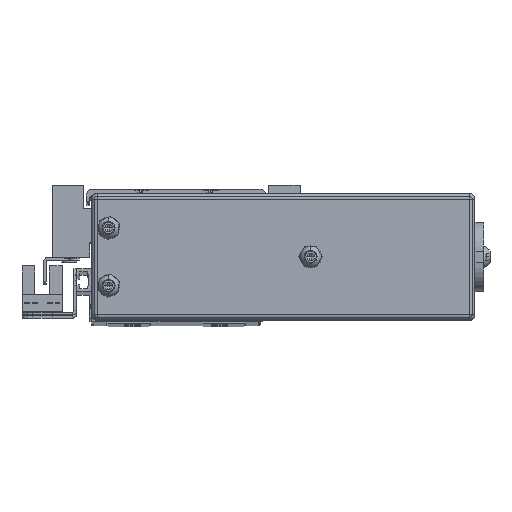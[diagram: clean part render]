
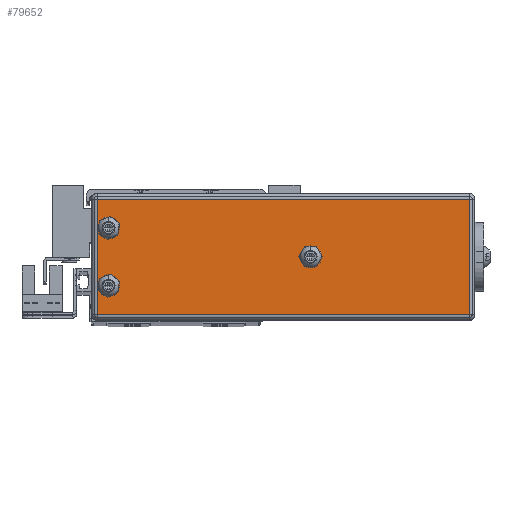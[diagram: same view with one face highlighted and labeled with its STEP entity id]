
A CAD part, top view. The second image highlights one B-rep face of the part: STEP entity #79652.
In plain terms, the highlighted planar face has unit normal (0, 0, 1).
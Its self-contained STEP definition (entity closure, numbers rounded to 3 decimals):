
#1047 = AXIS2_PLACEMENT_3D ( 'NONE', #48680, #118383, #176826 ) ;
#2823 = CARTESIAN_POINT ( 'NONE',  ( -110.161, 0.921, 163. ) ) ;
#3451 = DIRECTION ( 'NONE',  ( 1., 0., 0. ) ) ;
#4426 = CARTESIAN_POINT ( 'NONE',  ( -114.161, -11.079, 163. ) ) ;
#9890 = CARTESIAN_POINT ( 'NONE',  ( -40.161, 10.921, 163. ) ) ;
#11998 = EDGE_LOOP ( 'NONE', ( #132267, #35452 ) ) ;
#14494 = ORIENTED_EDGE ( 'NONE', *, *, #156686, .T. ) ;
#24312 = DIRECTION ( 'NONE',  ( 1., 0., 0. ) ) ;
#25530 = DIRECTION ( 'NONE',  ( 0., 0., 1. ) ) ;
#27119 = EDGE_LOOP ( 'NONE', ( #185744, #116910 ) ) ;
#28439 = VECTOR ( 'NONE', #32657, 1000. ) ;
#30113 = VERTEX_POINT ( 'NONE', #128046 ) ;
#31431 = CIRCLE ( 'NONE', #100628, 2.25 ) ;
#32657 = DIRECTION ( 'NONE',  ( 0., -1., 0. ) ) ;
#32734 = ORIENTED_EDGE ( 'NONE', *, *, #103810, .T. ) ;
#35452 = ORIENTED_EDGE ( 'NONE', *, *, #39516, .F. ) ;
#35946 = EDGE_LOOP ( 'NONE', ( #32734, #89162, #14494, #83785 ) ) ;
#38084 = EDGE_CURVE ( 'NONE', #66572, #30113, #53074, .T. ) ;
#38813 = LINE ( 'NONE', #150051, #61176 ) ;
#39181 = CARTESIAN_POINT ( 'NONE',  ( -110.161, 20.921, 163. ) ) ;
#39516 = EDGE_CURVE ( 'NONE', #71857, #84129, #31431, .T. ) ;
#42375 = DIRECTION ( 'NONE',  ( 1., 0., 0. ) ) ;
#43727 = CARTESIAN_POINT ( 'NONE',  ( -116.161, 30.921, 163. ) ) ;
#47524 = VERTEX_POINT ( 'NONE', #68026 ) ;
#48178 = CARTESIAN_POINT ( 'NONE',  ( -116.161, -11.079, 163. ) ) ;
#48284 = EDGE_CURVE ( 'NONE', #30113, #66572, #64216, .T. ) ;
#48373 = EDGE_CURVE ( 'NONE', #158679, #47524, #88846, .T. ) ;
#48680 = CARTESIAN_POINT ( 'NONE',  ( -40.161, 10.921, 163. ) ) ;
#49473 = DIRECTION ( 'NONE',  ( 0., 0., -1. ) ) ;
#53009 = CIRCLE ( 'NONE', #1047, 2.25 ) ;
#53074 = CIRCLE ( 'NONE', #75130, 2.25 ) ;
#54761 = LINE ( 'NONE', #154415, #81756 ) ;
#56874 = CARTESIAN_POINT ( 'NONE',  ( -110.161, 0.921, 163. ) ) ;
#61176 = VECTOR ( 'NONE', #63977, 1000. ) ;
#61761 = VERTEX_POINT ( 'NONE', #136835 ) ;
#62618 = DIRECTION ( 'NONE',  ( -1., 0., 0. ) ) ;
#63977 = DIRECTION ( 'NONE',  ( 1., 0., 0. ) ) ;
#64216 = CIRCLE ( 'NONE', #111195, 2.25 ) ;
#66572 = VERTEX_POINT ( 'NONE', #165188 ) ;
#68026 = CARTESIAN_POINT ( 'NONE',  ( -114.161, 30.921, 163. ) ) ;
#68253 = EDGE_LOOP ( 'NONE', ( #128956, #131860 ) ) ;
#71857 = VERTEX_POINT ( 'NONE', #80835 ) ;
#74000 = PLANE ( 'NONE',  #85812 ) ;
#75130 = AXIS2_PLACEMENT_3D ( 'NONE', #2823, #175437, #3451 ) ;
#79652 = ADVANCED_FACE ( 'NONE', ( #118202, #156506, #147434, #181205 ), #74000, .F. ) ;
#80835 = CARTESIAN_POINT ( 'NONE',  ( -112.411, 20.921, 163. ) ) ;
#81756 = VECTOR ( 'NONE', #168877, 1000. ) ;
#83785 = ORIENTED_EDGE ( 'NONE', *, *, #133363, .T. ) ;
#84129 = VERTEX_POINT ( 'NONE', #125520 ) ;
#85812 = AXIS2_PLACEMENT_3D ( 'NONE', #48178, #49473, #62618 ) ;
#87600 = DIRECTION ( 'NONE',  ( 1., 0., 0. ) ) ;
#88480 = VERTEX_POINT ( 'NONE', #113069 ) ;
#88846 = LINE ( 'NONE', #43727, #95494 ) ;
#88882 = AXIS2_PLACEMENT_3D ( 'NONE', #39181, #96141, #139558 ) ;
#89076 = EDGE_CURVE ( 'NONE', #61761, #102154, #53009, .T. ) ;
#89162 = ORIENTED_EDGE ( 'NONE', *, *, #48373, .T. ) ;
#91776 = AXIS2_PLACEMENT_3D ( 'NONE', #9890, #25530, #24312 ) ;
#95494 = VECTOR ( 'NONE', #171869, 1000. ) ;
#96141 = DIRECTION ( 'NONE',  ( 0., 0., 1. ) ) ;
#97721 = CIRCLE ( 'NONE', #88882, 2.25 ) ;
#100628 = AXIS2_PLACEMENT_3D ( 'NONE', #171746, #185031, #42375 ) ;
#102154 = VERTEX_POINT ( 'NONE', #117207 ) ;
#103810 = EDGE_CURVE ( 'NONE', #88480, #158679, #54761, .T. ) ;
#107151 = CIRCLE ( 'NONE', #91776, 2.25 ) ;
#111195 = AXIS2_PLACEMENT_3D ( 'NONE', #56874, #143579, #87600 ) ;
#113069 = CARTESIAN_POINT ( 'NONE',  ( 14.839, -9.079, 163. ) ) ;
#116910 = ORIENTED_EDGE ( 'NONE', *, *, #177816, .F. ) ;
#117207 = CARTESIAN_POINT ( 'NONE',  ( -42.411, 10.921, 163. ) ) ;
#118202 = FACE_BOUND ( 'NONE', #27119, .T. ) ;
#118383 = DIRECTION ( 'NONE',  ( 0., 0., 1. ) ) ;
#125520 = CARTESIAN_POINT ( 'NONE',  ( -107.911, 20.921, 163. ) ) ;
#128046 = CARTESIAN_POINT ( 'NONE',  ( -107.911, 0.921, 163. ) ) ;
#128956 = ORIENTED_EDGE ( 'NONE', *, *, #48284, .F. ) ;
#131860 = ORIENTED_EDGE ( 'NONE', *, *, #38084, .F. ) ;
#132267 = ORIENTED_EDGE ( 'NONE', *, *, #144167, .F. ) ;
#133363 = EDGE_CURVE ( 'NONE', #146484, #88480, #38813, .T. ) ;
#136835 = CARTESIAN_POINT ( 'NONE',  ( -37.911, 10.921, 163. ) ) ;
#139558 = DIRECTION ( 'NONE',  ( 1., 0., 0. ) ) ;
#143579 = DIRECTION ( 'NONE',  ( 0., 0., 1. ) ) ;
#144167 = EDGE_CURVE ( 'NONE', #84129, #71857, #97721, .T. ) ;
#146484 = VERTEX_POINT ( 'NONE', #153948 ) ;
#147434 = FACE_BOUND ( 'NONE', #11998, .T. ) ;
#150051 = CARTESIAN_POINT ( 'NONE',  ( -116.161, -9.079, 163. ) ) ;
#150155 = CARTESIAN_POINT ( 'NONE',  ( 14.839, 30.921, 163. ) ) ;
#153948 = CARTESIAN_POINT ( 'NONE',  ( -114.161, -9.079, 163. ) ) ;
#154415 = CARTESIAN_POINT ( 'NONE',  ( 14.839, -11.079, 163. ) ) ;
#156506 = FACE_BOUND ( 'NONE', #68253, .T. ) ;
#156686 = EDGE_CURVE ( 'NONE', #47524, #146484, #185737, .T. ) ;
#158679 = VERTEX_POINT ( 'NONE', #150155 ) ;
#165188 = CARTESIAN_POINT ( 'NONE',  ( -112.411, 0.921, 163. ) ) ;
#168877 = DIRECTION ( 'NONE',  ( 0., 1., 0. ) ) ;
#171746 = CARTESIAN_POINT ( 'NONE',  ( -110.161, 20.921, 163. ) ) ;
#171869 = DIRECTION ( 'NONE',  ( -1., 0., 0. ) ) ;
#175437 = DIRECTION ( 'NONE',  ( 0., 0., 1. ) ) ;
#176826 = DIRECTION ( 'NONE',  ( 1., 0., 0. ) ) ;
#177816 = EDGE_CURVE ( 'NONE', #102154, #61761, #107151, .T. ) ;
#181205 = FACE_OUTER_BOUND ( 'NONE', #35946, .T. ) ;
#185031 = DIRECTION ( 'NONE',  ( 0., 0., 1. ) ) ;
#185737 = LINE ( 'NONE', #4426, #28439 ) ;
#185744 = ORIENTED_EDGE ( 'NONE', *, *, #89076, .F. ) ;
